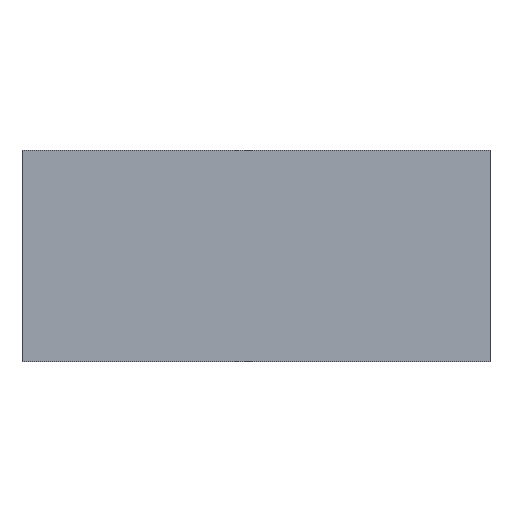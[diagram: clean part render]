
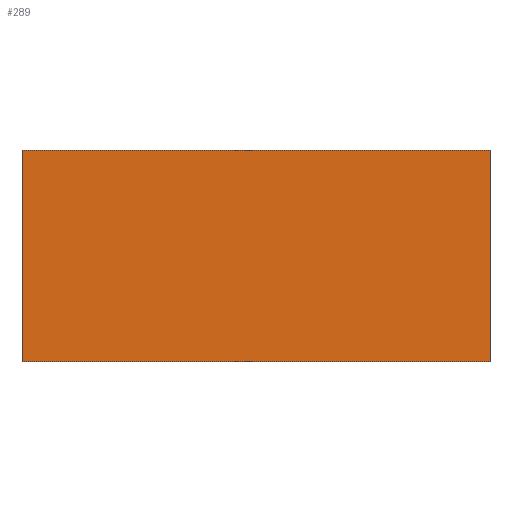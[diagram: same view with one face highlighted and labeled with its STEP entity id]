
A CAD part, top view. The second image highlights one B-rep face of the part: STEP entity #289.
In plain terms, the highlighted free-form (B-spline) face has degree [1, 1] with [2, 2] control points.
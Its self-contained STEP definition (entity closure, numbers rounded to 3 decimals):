
#289=ADVANCED_FACE('',(#914),#22631,.T.);
#914=FACE_OUTER_BOUND('',#1555,.T.);
#1555=EDGE_LOOP('',(#2445,#2446,#2447,#2448));
#2445=ORIENTED_EDGE('',*,*,#19154,.F.);
#2446=ORIENTED_EDGE('',*,*,#19152,.F.);
#2447=ORIENTED_EDGE('',*,*,#19150,.F.);
#2448=ORIENTED_EDGE('',*,*,#19148,.F.);
#5939=PCURVE('',#22627,#9447);
#5943=PCURVE('',#22628,#9451);
#5947=PCURVE('',#22629,#9455);
#5951=PCURVE('',#22630,#9459);
#5953=PCURVE('',#22631,#9461);
#5954=PCURVE('',#22631,#9462);
#5955=PCURVE('',#22631,#9463);
#5956=PCURVE('',#22631,#9464);
#9447=DEFINITIONAL_REPRESENTATION('',(#12977),#62745);
#9451=DEFINITIONAL_REPRESENTATION('',(#12983),#62745);
#9455=DEFINITIONAL_REPRESENTATION('',(#12989),#62745);
#9459=DEFINITIONAL_REPRESENTATION('',(#12995),#62745);
#9461=DEFINITIONAL_REPRESENTATION('',(#12997),#62745);
#9462=DEFINITIONAL_REPRESENTATION('',(#12998),#62745);
#9463=DEFINITIONAL_REPRESENTATION('',(#12999),#62745);
#9464=DEFINITIONAL_REPRESENTATION('',(#13000),#62745);
#12976=B_SPLINE_CURVE_WITH_KNOTS('',1,(#26252,#26253),.UNSPECIFIED.,.F.,
 .F.,(2,2),(0.,1150.),.UNSPECIFIED.);
#12977=B_SPLINE_CURVE_WITH_KNOTS('',1,(#26254,#26255),.UNSPECIFIED.,.F.,
 .F.,(2,2),(0.,1150.),.UNSPECIFIED.);
#12982=B_SPLINE_CURVE_WITH_KNOTS('',1,(#26264,#26265),.UNSPECIFIED.,.F.,
 .F.,(2,2),(0.,520.),.UNSPECIFIED.);
#12983=B_SPLINE_CURVE_WITH_KNOTS('',1,(#26266,#26267),.UNSPECIFIED.,.F.,
 .F.,(2,2),(0.,520.),.UNSPECIFIED.);
#12988=B_SPLINE_CURVE_WITH_KNOTS('',1,(#26276,#26277),.UNSPECIFIED.,.F.,
 .F.,(2,2),(0.,1150.),.UNSPECIFIED.);
#12989=B_SPLINE_CURVE_WITH_KNOTS('',1,(#26278,#26279),.UNSPECIFIED.,.F.,
 .F.,(2,2),(0.,1150.),.UNSPECIFIED.);
#12994=B_SPLINE_CURVE_WITH_KNOTS('',1,(#26288,#26289),.UNSPECIFIED.,.F.,
 .F.,(2,2),(0.,520.),.UNSPECIFIED.);
#12995=B_SPLINE_CURVE_WITH_KNOTS('',1,(#26290,#26291),.UNSPECIFIED.,.F.,
 .F.,(2,2),(0.,520.),.UNSPECIFIED.);
#12997=B_SPLINE_CURVE_WITH_KNOTS('',1,(#26294,#26295),.UNSPECIFIED.,.F.,
 .F.,(2,2),(0.,520.),.UNSPECIFIED.);
#12998=B_SPLINE_CURVE_WITH_KNOTS('',1,(#26296,#26297),.UNSPECIFIED.,.F.,
 .F.,(2,2),(0.,1150.),.UNSPECIFIED.);
#12999=B_SPLINE_CURVE_WITH_KNOTS('',1,(#26298,#26299),.UNSPECIFIED.,.F.,
 .F.,(2,2),(0.,520.),.UNSPECIFIED.);
#13000=B_SPLINE_CURVE_WITH_KNOTS('',1,(#26300,#26301),.UNSPECIFIED.,.F.,
 .F.,(2,2),(0.,1150.),.UNSPECIFIED.);
#17394=SURFACE_CURVE('',#12976,(#5939,#5956),.PCURVE_S1.);
#17396=SURFACE_CURVE('',#12982,(#5943,#5955),.PCURVE_S1.);
#17398=SURFACE_CURVE('',#12988,(#5947,#5954),.PCURVE_S1.);
#17400=SURFACE_CURVE('',#12994,(#5951,#5953),.PCURVE_S1.);
#19148=EDGE_CURVE('',#21533,#21534,#17394,.T.);
#19150=EDGE_CURVE('',#21534,#21535,#17396,.T.);
#19152=EDGE_CURVE('',#21535,#21536,#17398,.T.);
#19154=EDGE_CURVE('',#21536,#21533,#17400,.T.);
#21533=VERTEX_POINT('',#25690);
#21534=VERTEX_POINT('',#25691);
#21535=VERTEX_POINT('',#25692);
#21536=VERTEX_POINT('',#25693);
#22627=B_SPLINE_SURFACE_WITH_KNOTS('',1,1,((#25586,#25587),(#25588,#25589)),
 .UNSPECIFIED.,.F.,.F.,.F.,(2,2),(2,2),(-115.12,1265.12),(-4.12,44.12),
 .UNSPECIFIED.);
#22628=B_SPLINE_SURFACE_WITH_KNOTS('',1,1,((#25590,#25591),(#25592,#25593)),
 .UNSPECIFIED.,.F.,.F.,.F.,(2,2),(2,2),(-52.12,572.12),(-4.12,44.12),
 .UNSPECIFIED.);
#22629=B_SPLINE_SURFACE_WITH_KNOTS('',1,1,((#25594,#25595),(#25596,#25597)),
 .UNSPECIFIED.,.F.,.F.,.F.,(2,2),(2,2),(-115.12,1265.12),(-4.12,44.12),
 .UNSPECIFIED.);
#22630=B_SPLINE_SURFACE_WITH_KNOTS('',1,1,((#25598,#25599),(#25600,#25601)),
 .UNSPECIFIED.,.F.,.F.,.F.,(2,2),(2,2),(-52.12,572.12),(-4.12,44.12),
 .UNSPECIFIED.);
#22631=B_SPLINE_SURFACE_WITH_KNOTS('',1,1,((#25602,#25603),(#25604,#25605)),
 .UNSPECIFIED.,.F.,.F.,.F.,(2,2),(2,2),(-312.12,312.12),(-690.12,690.12),
 .UNSPECIFIED.);
#25586=CARTESIAN_POINT('',(690.12,-4.12,-260.));
#25587=CARTESIAN_POINT('',(690.12,44.12,-260.));
#25588=CARTESIAN_POINT('',(-690.12,-4.12,-260.));
#25589=CARTESIAN_POINT('',(-690.12,44.12,-260.));
#25590=CARTESIAN_POINT('',(575.,-4.12,312.12));
#25591=CARTESIAN_POINT('',(575.,44.12,312.12));
#25592=CARTESIAN_POINT('',(575.,-4.12,-312.12));
#25593=CARTESIAN_POINT('',(575.,44.12,-312.12));
#25594=CARTESIAN_POINT('',(-690.12,-4.12,260.));
#25595=CARTESIAN_POINT('',(-690.12,44.12,260.));
#25596=CARTESIAN_POINT('',(690.12,-4.12,260.));
#25597=CARTESIAN_POINT('',(690.12,44.12,260.));
#25598=CARTESIAN_POINT('',(-575.,-4.12,-312.12));
#25599=CARTESIAN_POINT('',(-575.,44.12,-312.12));
#25600=CARTESIAN_POINT('',(-575.,-4.12,312.12));
#25601=CARTESIAN_POINT('',(-575.,44.12,312.12));
#25602=CARTESIAN_POINT('',(-690.12,40.,-312.12));
#25603=CARTESIAN_POINT('',(690.12,40.,-312.12));
#25604=CARTESIAN_POINT('',(-690.12,40.,312.12));
#25605=CARTESIAN_POINT('',(690.12,40.,312.12));
#25690=CARTESIAN_POINT('',(-575.,40.,-260.));
#25691=CARTESIAN_POINT('',(575.,40.,-260.));
#25692=CARTESIAN_POINT('',(575.,40.,260.));
#25693=CARTESIAN_POINT('',(-575.,40.,260.));
#26252=CARTESIAN_POINT('',(-575.,40.,-260.));
#26253=CARTESIAN_POINT('',(575.,40.,-260.));
#26254=CARTESIAN_POINT('',(1150.,40.));
#26255=CARTESIAN_POINT('',(0.,40.));
#26264=CARTESIAN_POINT('',(575.,40.,-260.));
#26265=CARTESIAN_POINT('',(575.,40.,260.));
#26266=CARTESIAN_POINT('',(520.,40.));
#26267=CARTESIAN_POINT('',(0.,40.));
#26276=CARTESIAN_POINT('',(575.,40.,260.));
#26277=CARTESIAN_POINT('',(-575.,40.,260.));
#26278=CARTESIAN_POINT('',(1150.,40.));
#26279=CARTESIAN_POINT('',(0.,40.));
#26288=CARTESIAN_POINT('',(-575.,40.,260.));
#26289=CARTESIAN_POINT('',(-575.,40.,-260.));
#26290=CARTESIAN_POINT('',(520.,40.));
#26291=CARTESIAN_POINT('',(0.,40.));
#26294=CARTESIAN_POINT('',(260.,-575.));
#26295=CARTESIAN_POINT('',(-260.,-575.));
#26296=CARTESIAN_POINT('',(260.,575.));
#26297=CARTESIAN_POINT('',(260.,-575.));
#26298=CARTESIAN_POINT('',(-260.,575.));
#26299=CARTESIAN_POINT('',(260.,575.));
#26300=CARTESIAN_POINT('',(-260.,-575.));
#26301=CARTESIAN_POINT('',(-260.,575.));
#62745=(
GEOMETRIC_REPRESENTATION_CONTEXT(2)
PARAMETRIC_REPRESENTATION_CONTEXT()
REPRESENTATION_CONTEXT('pspace','')
);
